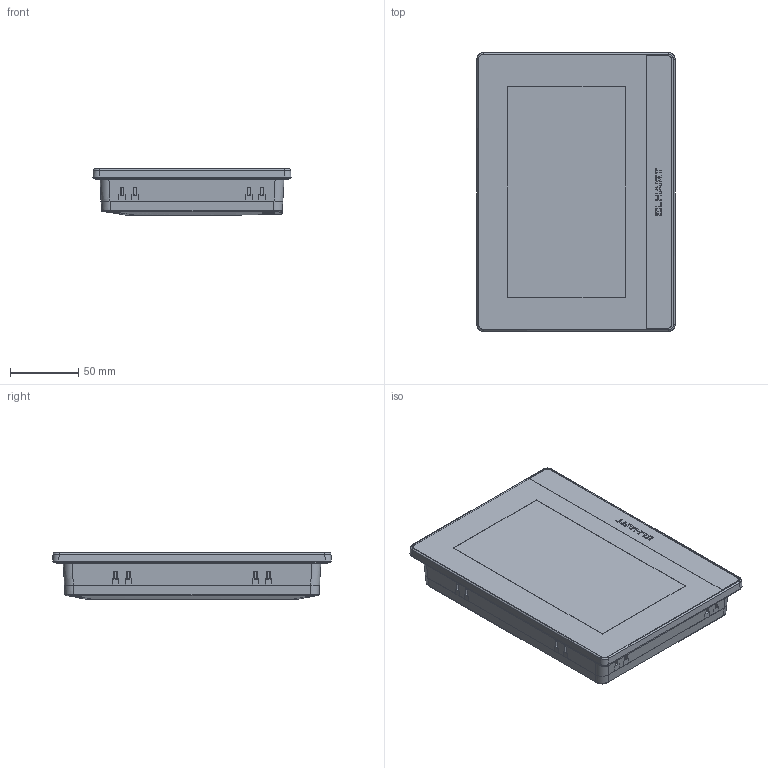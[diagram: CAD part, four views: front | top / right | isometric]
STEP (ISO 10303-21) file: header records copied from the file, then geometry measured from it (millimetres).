
FILE_DESCRIPTION(('STEP AP203'), '1');
FILE_NAME('ELP 07L', '2025-02-12T12:53:25', ('椸梏倷'), ('椸梏倷'), 'ASCON STEP Converter 1.6', 'ASCON Math Kernel', '');
FILE_SCHEMA(('CONFIG_CONTROL_DESIGN'));
Length unit declared in the file: millimetre
Products named in the file (1): ﾊﾎﾍﾒﾓﾐ-ﾀ HMI
Bounding box: 145 x 204 x 34.2 mm (x, y, z)
Volume: 743910.4 mm3; surface area: 97852.7 mm2
Topology: 8 solids, 15 shells, 1120 faces, 2982 edges, 1930 vertices
Faces by surface type: plane 770, cylinder 169, bspline 73, cone 60, torus 20, extrusion 17, sphere 11
Full cylindrical faces by diameter (mm): 1 x9, 1.3 x2, 2.5 x2, 4.61 x2, 7 x3
Entity records: 56118 total; most frequent: CARTESIAN_POINT 21312, ORIENTED_EDGE 5834, DIRECTION 4430, EDGE_CURVE 2917, VERTEX_POINT 1907, VECTOR 1888, LINE 1871, AXIS2_PLACEMENT_3D 1271
